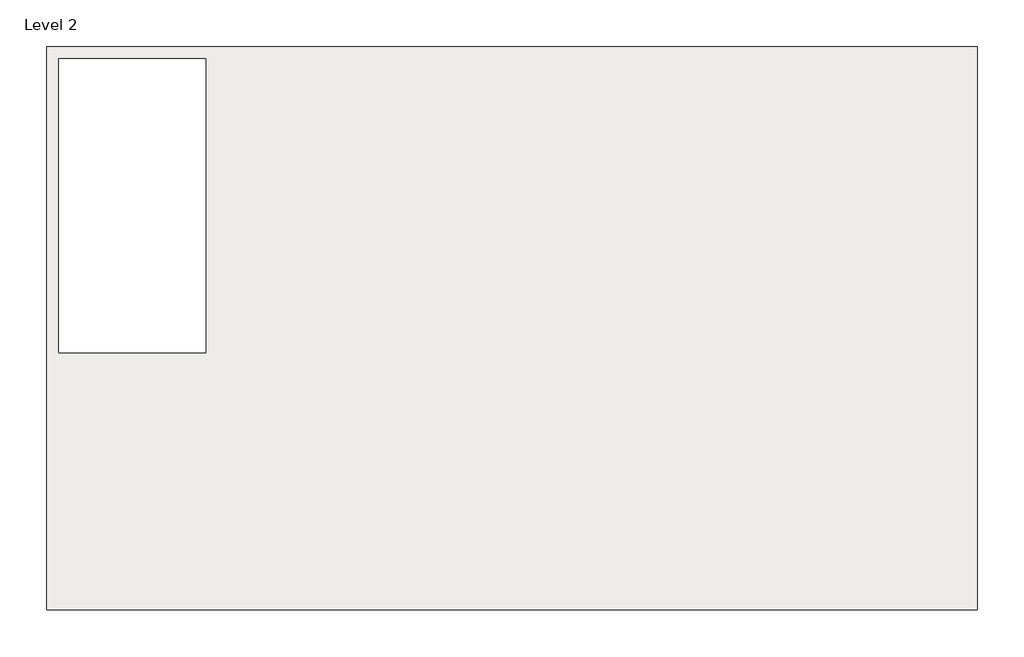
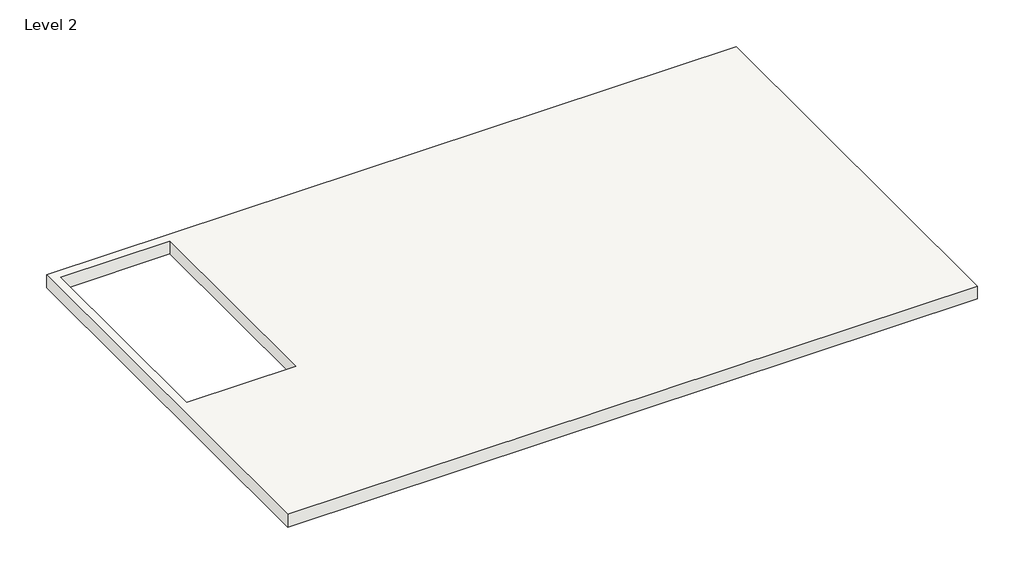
# One storey: 1 roof.
"""IFC4 building model written with IfcOpenShell, lengths in millimetres."""

import ifcopenshell
import ifcopenshell.guid

model = None  # the IFC model being written
_history = None  # IfcOwnerHistory: only IFC2X3 demands one
_inside = {}  # id of a spatial element -> (the spatial element, [elements in it])
_under = {}  # id of a project, library or spatial element -> (it, [spatial elements below it])
_declared = {}  # id of a project -> (the project, [libraries it declares])
_typed = {}  # id of a type object -> (the type object, [elements of that type])
_made_of = {}  # id of a material, layer set ... -> (it, [elements and type objects made of it])


def new_model(schema):
    """Start an empty IFC model of exactly this schema.

    Asked for "IFC4X3", IfcOpenShell would pick the latest addendum, in which some entities
    have other attributes; the version numbers below select the first issue.
    IFC2X3 requires an IfcOwnerHistory on every rooted entity: one is made here for all.
    """
    global model, _history
    if schema == "IFC4X3":
        model = ifcopenshell.file(schema_version=(4, 3, 0, 0))
    else:
        model = ifcopenshell.file(schema=schema)
    _inside.clear()
    _under.clear()
    _declared.clear()
    _typed.clear()
    _made_of.clear()
    _history = None
    if model.schema == "IFC2X3":
        org = make("IfcOrganization", Name="unknown")
        user = make(
            "IfcPersonAndOrganization",
            ThePerson=make("IfcPerson", FamilyName="unknown"),
            TheOrganization=org,
        )
        app = make(
            "IfcApplication",
            ApplicationDeveloper=org,
            Version="unknown",
            ApplicationFullName="unknown",
            ApplicationIdentifier="unknown",
        )
        _history = make(
            "IfcOwnerHistory",
            OwningUser=user,
            OwningApplication=app,
            ChangeAction="ADDED",
            CreationDate=0,
        )
    return model


def make(cls, **values):
    """One entity of the class cls with the attributes given. An attribute that is None is left unset."""
    return model.create_entity(
        cls, **{name: value for name, value in values.items() if value is not None}
    )


def rooted(cls, **values):
    """An entity with a GlobalId (a new one), such as an element, a storey or a relation."""
    return make(cls, GlobalId=ifcopenshell.guid.new(), OwnerHistory=_history, **values)


def si_unit(unit_type, name, prefix=None):
    """IfcSIUnit, for example si_unit("LENGTHUNIT", "METRE", prefix="MILLI")."""
    return make("IfcSIUnit", UnitType=unit_type, Prefix=prefix, Name=name)


def assignment(units):
    """IfcUnitAssignment: the units of a project."""
    return None if units is None else make("IfcUnitAssignment", Units=units)


def point(xyz):
    """IfcCartesianPoint."""
    return None if xyz is None else make("IfcCartesianPoint", Coordinates=xyz)


def direction(xyz):
    """IfcDirection."""
    return None if xyz is None else make("IfcDirection", DirectionRatios=xyz)


def frame(location, z_axis=None, x_axis=None):
    """IfcAxis2Placement3D, a coordinate frame: its origin and axes. An axis left out is left unset."""
    return make(
        "IfcAxis2Placement3D",
        Location=point(location),
        Axis=direction(z_axis),
        RefDirection=direction(x_axis),
    )


def origin():
    """The frame at (0, 0, 0) with its axes left unset."""
    return frame((0.0, 0.0, 0.0))


def place(relative_to, where):
    """IfcLocalPlacement: puts the frame where relative to a parent placement (None: the world)."""
    return make(
        "IfcLocalPlacement", PlacementRelTo=relative_to, RelativePlacement=where
    )


def context(
    kind, dimensions, precision=None, world=None, true_north=None, identifier=None
):
    """IfcGeometricRepresentationContext, for example the 3D "Model" context."""
    return make(
        "IfcGeometricRepresentationContext",
        ContextIdentifier=identifier,
        ContextType=kind,
        CoordinateSpaceDimension=dimensions,
        Precision=precision,
        WorldCoordinateSystem=world,
        TrueNorth=true_north,
    )


def project(units=None, contexts=None):
    """IfcProject with its units and contexts."""
    return rooted(
        "IfcProject",
        Name="project",
        RepresentationContexts=contexts,
        UnitsInContext=assignment(units),
    )


def spatial(cls, under=None, at=None, **own):
    """A site, building, storey or space (cls), placed at a placement, below another one or the project."""
    s = rooted(cls, ObjectPlacement=at, **own)
    if under is not None:
        _under.setdefault(under.id(), (under, []))[1].append(s)
    return s


def polyline(points):
    """IfcPolyline through the points."""
    return make("IfcPolyline", Points=[point(p) for p in points])


def outline(outer, holes=None, kind="AREA"):
    """IfcArbitraryClosedProfileDef: a profile drawn as a closed curve; with holes, ...WithVoids."""
    if holes is None:
        return make("IfcArbitraryClosedProfileDef", ProfileType=kind, OuterCurve=outer)
    return make(
        "IfcArbitraryProfileDefWithVoids",
        ProfileType=kind,
        OuterCurve=outer,
        InnerCurves=holes,
    )


def extrude(swept, where, along, depth):
    """IfcExtrudedAreaSolid: the profile swept, set in the frame where, extruded along a direction by depth."""
    return make(
        "IfcExtrudedAreaSolid",
        SweptArea=swept,
        Position=where,
        ExtrudedDirection=direction(along),
        Depth=depth,
    )


def shape(context_of_items, identifier, shape_type, items):
    """IfcShapeRepresentation: the items that make up one representation, for example the "Body"."""
    return make(
        "IfcShapeRepresentation",
        ContextOfItems=context_of_items,
        RepresentationIdentifier=identifier,
        RepresentationType=shape_type,
        Items=items,
    )


def made_of(thing, what):
    """Note that an element or type object is made of a material, layer set ...; save() writes the relation."""
    if what is not None:
        _made_of.setdefault(what.id(), (what, []))[1].append(thing)
    return thing


def element(
    cls,
    number,
    at=None,
    inside=None,
    cuts=None,
    type_object=None,
    material=None,
    context=None,
    identifier="Body",
    shape_type=None,
    held_by="IfcProductDefinitionShape",
    body=None,
    shapes=None,
    **own,
):
    """One element of the class cls, such as IfcWall. Its Tag is "e" and its number.

    at: its placement. inside: the storey or other place that contains it. cuts: it is an
    opening in that element (IfcRelVoidsElement). A single representation is given by context,
    identifier, shape_type and body (its items); several are given by shapes. held_by: the class
    of the entity that holds the representations. save() writes the other relations.
    """
    e = rooted(cls, Tag="e%d" % number, ObjectPlacement=at, **own)
    if body is not None:
        shapes = [shape(context, identifier, shape_type, body)]
    if shapes is not None:
        e.Representation = make(held_by, Representations=shapes)
    if inside is not None:
        _inside.setdefault(inside.id(), (inside, []))[1].append(e)
    if cuts is not None:
        rooted(
            "IfcRelVoidsElement", RelatingBuildingElement=cuts, RelatedOpeningElement=e
        )
    if type_object is not None:
        _typed.setdefault(type_object.id(), (type_object, []))[1].append(e)
    return made_of(e, material)


def aggregate(whole, parts):
    """IfcRelAggregates: a whole, such as a stair, and the parts it consists of."""
    return rooted("IfcRelAggregates", RelatingObject=whole, RelatedObjects=parts)


def save(model, path):
    """Write the relations noted so far, then the file.

    IfcRelAggregates (storeys below a building ...), IfcRelContainedInSpatialStructure (elements
    in a storey), IfcRelDefinesByType, IfcRelAssociatesMaterial and IfcRelDeclares: one each for
    every whole, place, type object, material and project.
    """
    for whole, parts in _under.values():
        aggregate(whole, parts)
    for where, things in _inside.values():
        rooted(
            "IfcRelContainedInSpatialStructure",
            RelatedElements=things,
            RelatingStructure=where,
        )
    for kind, things in _typed.values():
        rooted("IfcRelDefinesByType", RelatedObjects=things, RelatingType=kind)
    for what, things in _made_of.values():
        rooted("IfcRelAssociatesMaterial", RelatedObjects=things, RelatingMaterial=what)
    for by, libraries in _declared.values():
        rooted("IfcRelDeclares", RelatingContext=by, RelatedDefinitions=libraries)
    model.write(path)


model = new_model("IFC4")

# Units and contexts
model_context = context("Model", 3, world=origin())
ifc_project = project(units=[si_unit("LENGTHUNIT", "METRE", prefix="MILLI")], contexts=[model_context])

# Site, building, storey
site = spatial("IfcSite", under=ifc_project)
building = spatial("IfcBuilding", under=site)
storey = spatial("IfcBuildingStorey", under=building, Name="Level 2", Elevation=3048.0)

# Roof
placement = place(None, origin())
element("IfcRoof", 1, ObjectType="Generic - 12\"", at=placement, inside=storey, context=model_context, shape_type="SweptSolid", body=[
    extrude(outline(polyline([(-7840.93909, 68.1412302), (-7840.93909, 9415.3412302), (7602.26091, 9415.3412302), (7602.26091, 68.1412302), (-7840.93909, 68.1412302)]), holes=[polyline([(-5199.33909, 9212.1412302), (-7637.73909, 9212.1412302), (-7637.73909, 4335.3412302), (-5199.33909, 4335.3412302), (-5199.33909, 9212.1412302)])]), frame((0.0, 0.0, 3048.0), z_axis=(0.0, 0.0, 1.0), x_axis=(1.0, 0.0, 0.0)), (0.0, 0.0, 1.0), 304.8),
])

save(model, "model.ifc")
